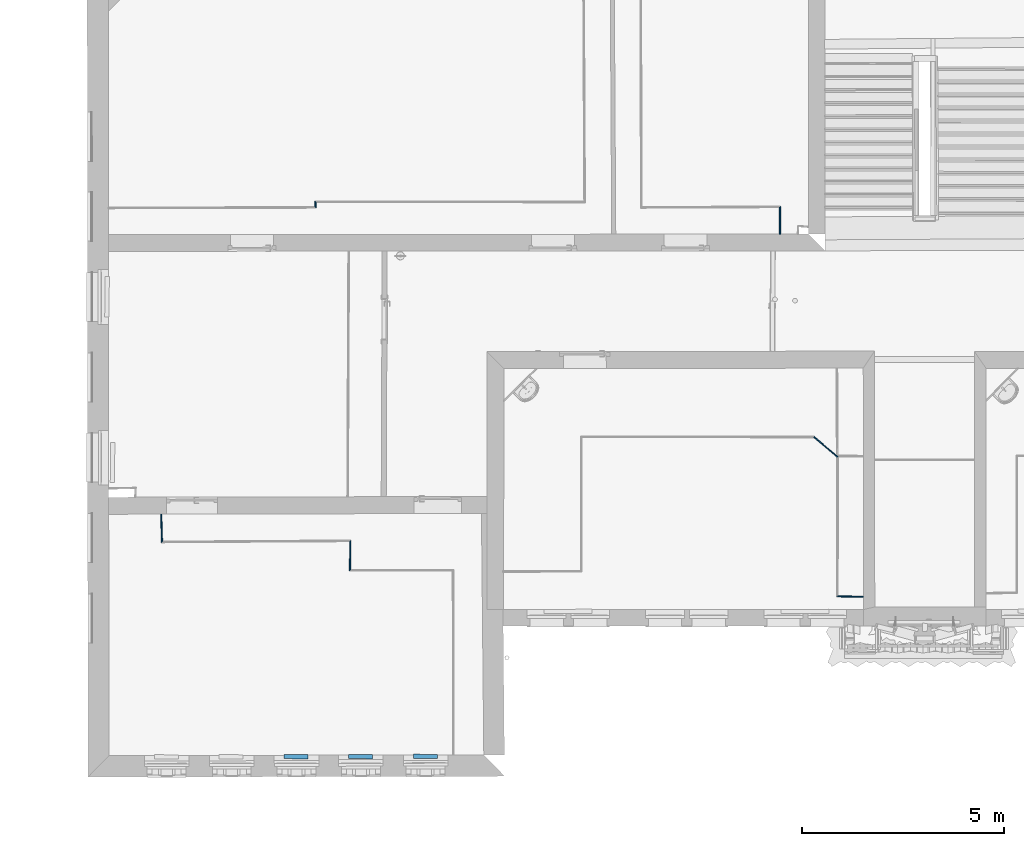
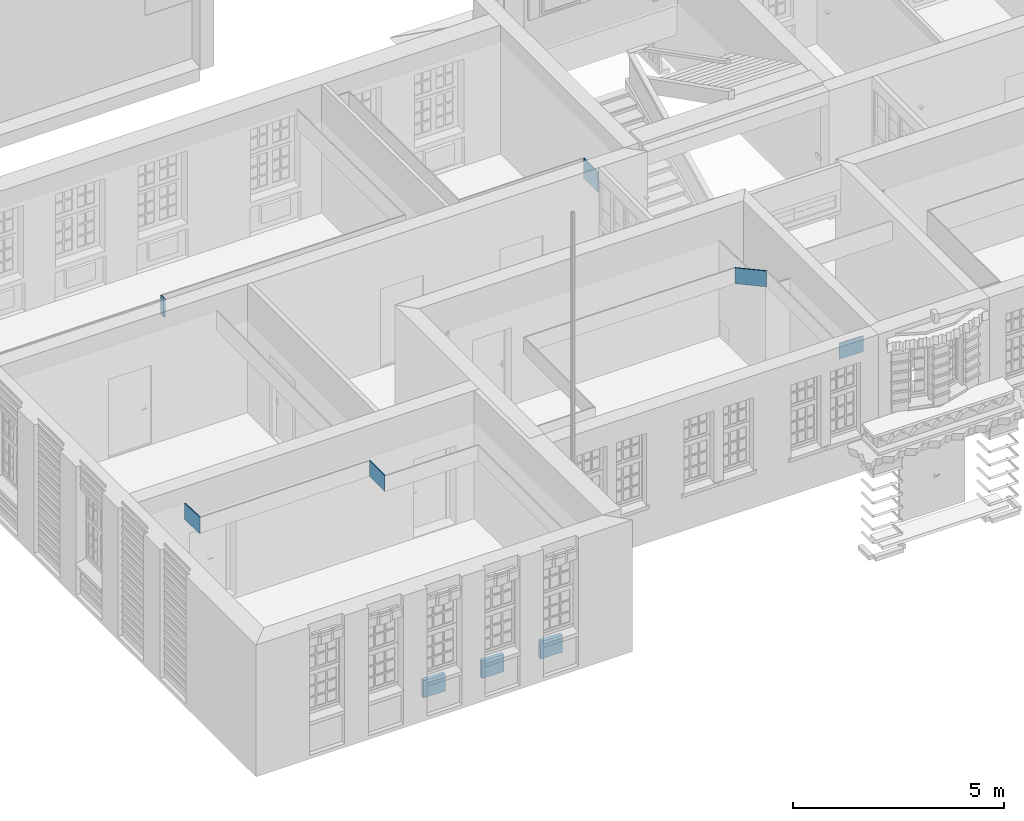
# One storey, part 48 of 158: 9 walls.
"""IFC2X3 building model written with IfcOpenShell, lengths in metres."""

from ifc_helpers import new_model, entity, si_unit, converted_unit, derived_unit, money_unit, direction, frame, origin_with_axes, place, context, subcontext, project, spatial, polyline, outline, extrude, material, layer, layer_set, layer_usage, type_object, element, save


model = new_model("IFC2X3")

# Units and contexts
model_context = context("Model", 3, precision=1e-05, world=origin_with_axes(), true_north=direction((0.0, 1.0)))
body_context = subcontext(model_context, "Body", "Model", "MODEL_VIEW")
ifc_project = project(units=[si_unit("LENGTHUNIT", "METRE"), si_unit("AREAUNIT", "SQUARE_METRE"), si_unit("VOLUMEUNIT", "CUBIC_METRE"), converted_unit("PLANEANGLEUNIT", "DEGREE", entity("IfcPlaneAngleMeasure", 0.0174532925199), si_unit("PLANEANGLEUNIT", "RADIAN"), dimensions=[0, 0, 0, 0, 0, 0, 0]), money_unit("EUR"), converted_unit("TIMEUNIT", "Year", entity("IfcTimeMeasure", 31556926.0), si_unit("TIMEUNIT", "SECOND"), dimensions=[0, 0, 1, 0, 0, 0, 0]), si_unit("MASSUNIT", "GRAM", prefix="KILO"), si_unit("THERMODYNAMICTEMPERATUREUNIT", "DEGREE_CELSIUS"), si_unit("LUMINOUSINTENSITYUNIT", "LUMEN"), si_unit("ENERGYUNIT", "JOULE", prefix="MEGA"), derived_unit("THERMALCONDUCTANCEUNIT", [(si_unit("POWERUNIT", "WATT"), 1), (si_unit("LENGTHUNIT", "METRE"), -1), (si_unit("THERMODYNAMICTEMPERATUREUNIT", "KELVIN"), -1)]), derived_unit("SPECIFICHEATCAPACITYUNIT", [(si_unit("ENERGYUNIT", "JOULE"), 1), (si_unit("MASSUNIT", "GRAM", prefix="KILO"), -1), (si_unit("THERMODYNAMICTEMPERATUREUNIT", "KELVIN"), -1)]), derived_unit("MASSDENSITYUNIT", [(si_unit("MASSUNIT", "GRAM", prefix="KILO"), 1), (si_unit("VOLUMEUNIT", "CUBIC_METRE"), -1)])], contexts=[model_context])

# Site, building, storey
site_placement = place(None, origin_with_axes())
site = spatial("IfcSite", under=ifc_project, at=site_placement, Name="Gelände", CompositionType="ELEMENT")
building_placement = place(site_placement, origin_with_axes())
building = spatial("IfcBuilding", under=site, at=building_placement, Name="Gebäude", CompositionType="ELEMENT")
storey_placement = place(building_placement, origin_with_axes())
storey = spatial("IfcBuildingStorey", under=building, at=storey_placement, Name="ERDGESCHOSS", CompositionType="ELEMENT", Elevation=0.0)

# Walls
ifc_material_1 = material(Name="43_Gipskarton")
ifc_layer_1 = layer(ifc_material_1, 0.03, ventilated="UNKNOWN")
ifc_layer_set_1 = layer_set([ifc_layer_1], Name="43_Gipskarton 0.03")
ifc_layer_usage_1 = layer_usage(ifc_layer_set_1, "AXIS2", "NEGATIVE", 0.03)
wall_type_1 = type_object("IfcWallType", Name="43_Gipskarton 30", PredefinedType="ELEMENTEDWALL")
wall_1_placement = place(storey_placement, frame((-21.5826782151, 12.0832899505, 2.68), z_axis=(0.0, 0.0, 1.0), x_axis=(-0.0127086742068, -0.999919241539, 0.0)))
element("IfcWallStandardCase", 1, at=wall_1_placement, inside=storey, type_object=wall_type_1, material=ifc_layer_usage_1, Name="Wand-039", ObjectType="ELEMENTEDWALL", context=body_context, shape_type="SweptSolid", body=[
    extrude(outline(polyline([(0.0, 0.0), (0.728635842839, 0.0), (0.698267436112, 0.03), (-0.0305615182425, 0.03), (0.0, 0.0)])), origin_with_axes(), (0.0, 0.0, 1.0), 0.45),
])
ifc_layer_usage_2 = layer_usage(ifc_layer_set_1, "AXIS2", "NEGATIVE", 0.03)
wall_2_placement = place(storey_placement, frame((-22.4405198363, 20.4933034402, 2.565), z_axis=(0.0, 0.0, 1.0), x_axis=(0.0, -1.0, 0.0)))
element("IfcWallStandardCase", 2, at=wall_2_placement, inside=storey, type_object=wall_type_1, material=ifc_layer_usage_2, Name="Wand-040", ObjectType="ELEMENTEDWALL", context=body_context, shape_type="SweptSolid", body=[
    extrude(outline(polyline([(0.0, 0.0), (0.142016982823, 0.0), (0.171938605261, 0.03), (0.0300392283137, 0.03), (0.0, 0.0)])), origin_with_axes(), (0.0, 0.0, 1.0), 0.55),
])
ifc_layer_usage_3 = layer_usage(ifc_layer_set_1, "AXIS2", "NEGATIVE", 0.0)
wall_3_placement = place(storey_placement, frame((-10.9399125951, 20.3653747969, 2.555), z_axis=(0.0, 0.0, 1.0), x_axis=(0.00231136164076, -0.9999973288, 0.0)))
element("IfcWallStandardCase", 3, at=wall_3_placement, inside=storey, type_object=wall_type_1, material=ifc_layer_usage_3, Name="Wand-040", ObjectType="ELEMENTEDWALL", context=body_context, shape_type="SweptSolid", body=[
    extrude(outline(polyline([(0.030063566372, -0.03), (0.690227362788, -0.03), (0.690278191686, 0.0), (0.0, 0.0), (0.030063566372, -0.03)])), origin_with_axes(), (0.0, 0.0, 1.0), 0.585),
])
ifc_layer_usage_4 = layer_usage(ifc_layer_set_1, "AXIS2", "NEGATIVE", 0.0)
wall_4_placement = place(storey_placement, frame((-26.2347375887, 12.0561486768, 2.66), z_axis=(0.0, 0.0, 1.0), x_axis=(-0.0298855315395, 0.999553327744, 0.0)))
element("IfcWallStandardCase", 4, at=wall_4_placement, inside=storey, type_object=wall_type_1, material=ifc_layer_usage_4, Name="Wand-042", ObjectType="ELEMENTEDWALL", context=body_context, shape_type="SweptSolid", body=[
    extrude(outline(polyline([(0.0292868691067, -0.03), (0.699704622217, -0.03), (0.70053524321, 0.0), (0.0, 0.0), (0.0292868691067, -0.03)])), origin_with_axes(), (0.0, 0.0, 1.0), 0.47),
])
ifc_layer_usage_5 = layer_usage(ifc_layer_set_1, "AXIS2", "NEGATIVE", 0.03)
wall_5_placement = place(storey_placement, frame((-10.1186936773, 14.6481948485, 2.675), z_axis=(0.0, 0.0, 1.0), x_axis=(0.763199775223, -0.646162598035, 0.0)))
element("IfcWallStandardCase", 5, at=wall_5_placement, inside=storey, type_object=wall_type_1, material=ifc_layer_usage_5, Name="Wand-043", ObjectType="ELEMENTEDWALL", context=body_context, shape_type="SweptSolid", body=[
    extrude(outline(polyline([(0.0, 0.0), (0.752477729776, 0.0), (0.766422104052, 0.03), (-0.0109663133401, 0.03), (0.0, 0.0)])), origin_with_axes(), (0.0, 0.0, 1.0), 0.455),
])
ifc_layer_usage_6 = layer_usage(ifc_layer_set_1, "AXIS2", "NEGATIVE", 0.03)
wall_6_placement = place(storey_placement, frame((-9.55115121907, 10.7123262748, 2.675), z_axis=(0.0, 0.0, 1.0), x_axis=(0.999805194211, -0.0197376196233, 0.0)))
element("IfcWallStandardCase", 6, at=wall_6_placement, inside=storey, type_object=wall_type_1, material=ifc_layer_usage_6, Name="Wand-045", ObjectType="ELEMENTEDWALL", context=body_context, shape_type="SweptSolid", body=[
    extrude(outline(polyline([(0.0, 0.0), (0.660194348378, 0.0), (0.659578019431, 0.03), (0.0294712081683, 0.03), (0.0, 0.0)])), origin_with_axes(), (0.0, 0.0, 1.0), 0.455),
])
ifc_material_2 = material(Name="01_ALLGEMEIN - BAUTEIL")
ifc_layer_2 = layer(ifc_material_2, 0.105, ventilated="UNKNOWN")
ifc_layer_set_2 = layer_set([ifc_layer_2], Name="01_ALLGEMEIN - BAUTEIL 0.105")
ifc_layer_usage_7 = layer_usage(ifc_layer_set_2, "AXIS2", "NEGATIVE", 0.105)
wall_type_2 = type_object("IfcWallType", Name="01_ALLGEMEIN - BAUTEIL 105", PredefinedType="ELEMENTEDWALL")
wall_7_placement = place(storey_placement, frame((-19.4127222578, 6.81987862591, 0.0935706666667), z_axis=(0.0, 0.0, 1.0), x_axis=(-0.999924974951, 0.012249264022, 0.0)))
element("IfcWallStandardCase", 7, at=wall_7_placement, inside=storey, type_object=wall_type_2, material=ifc_layer_usage_7, Name="Wand-041", ObjectType="ELEMENTEDWALL", context=body_context, shape_type="SweptSolid", body=[
    extrude(outline(polyline([(0.0, 0.0), (0.597040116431, 0.0), (0.597040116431, 0.105), (0.0, 0.105), (0.0, 0.0)])), origin_with_axes(), (0.0, 0.0, 1.0), 0.501014),
])
ifc_layer_usage_8 = layer_usage(ifc_layer_set_2, "AXIS2", "NEGATIVE", 0.105)
wall_8_placement = place(storey_placement, frame((-21.0143789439, 6.81704047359, 0.0935706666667), z_axis=(0.0, 0.0, 1.0), x_axis=(-0.999924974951, 0.012249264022, 0.0)))
element("IfcWallStandardCase", 8, at=wall_8_placement, inside=storey, type_object=wall_type_2, material=ifc_layer_usage_8, Name="Wand-041", ObjectType="ELEMENTEDWALL", context=body_context, shape_type="SweptSolid", body=[
    extrude(outline(polyline([(0.0, 0.0), (0.597040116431, 0.0), (0.597040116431, 0.105), (0.0, 0.105), (0.0, 0.0)])), origin_with_axes(), (0.0, 0.0, 1.0), 0.501014),
])
ifc_layer_usage_9 = layer_usage(ifc_layer_set_2, "AXIS2", "NEGATIVE", 0.105)
wall_9_placement = place(storey_placement, frame((-22.6095283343, 6.81421385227, 0.0935706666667), z_axis=(0.0, 0.0, 1.0), x_axis=(-0.999924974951, 0.012249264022, 0.0)))
element("IfcWallStandardCase", 9, at=wall_9_placement, inside=storey, type_object=wall_type_2, material=ifc_layer_usage_9, Name="Wand-041", ObjectType="ELEMENTEDWALL", context=body_context, shape_type="SweptSolid", body=[
    extrude(outline(polyline([(0.0, 0.0), (0.597040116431, 0.0), (0.597040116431, 0.105), (0.0, 0.105), (0.0, 0.0)])), origin_with_axes(), (0.0, 0.0, 1.0), 0.501014),
])

save(model, "model.ifc")
